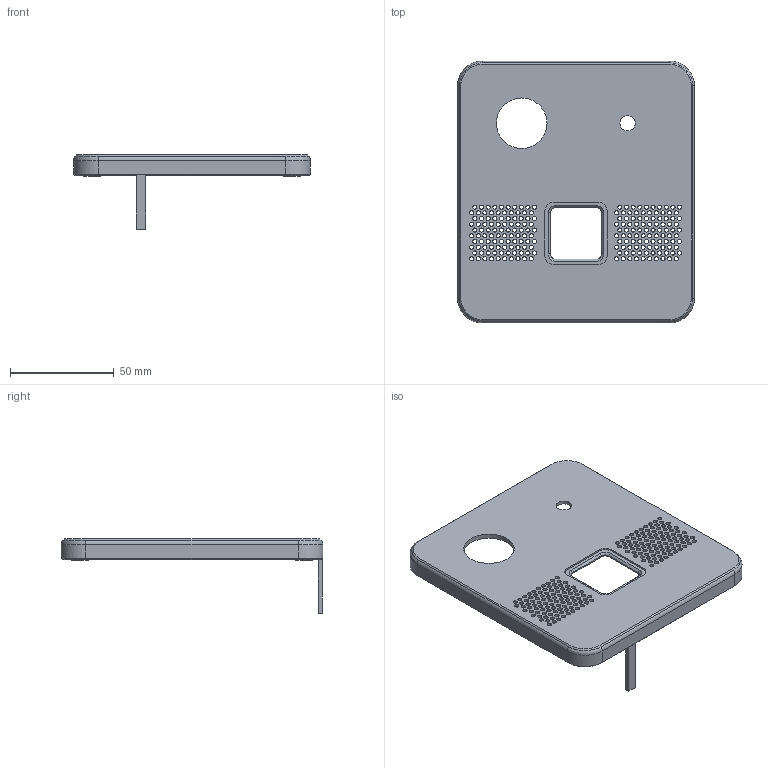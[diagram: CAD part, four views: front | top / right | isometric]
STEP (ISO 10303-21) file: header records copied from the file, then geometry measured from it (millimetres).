
FILE_DESCRIPTION(('Open CASCADE Model'),'2;1');
FILE_NAME('Open CASCADE Shape Model','2026-10-01T00:48:59',('Author'),( 'Open CASCADE'),'Open CASCADE STEP processor 7.9','Open CASCADE 7.9' ,'Unknown');
FILE_SCHEMA(('AUTOMOTIVE_DESIGN { 1 0 10303 214 1 1 1 1 }'));
Length unit declared in the file: millimetre
Products named in the file (1): Open CASCADE STEP translator 7.9 3
Bounding box: 114.34 x 126.4 x 35.8 mm (x, y, z)
Volume: 36514.8 mm3; surface area: 37174.7 mm2
Topology: 1 solids, 1 shells, 320 faces, 890 edges, 580 vertices
Faces by surface type: cylinder 243, plane 57, cone 12, bspline 4, torus 4
Full cylindrical faces by diameter (mm): 2 x200, 2.6 x4, 7.4 x1, 8 x4, 20 x1, 24.4 x1
Entity records: 24613 total; most frequent: CARTESIAN_POINT 7027, DIRECTION 3185, ORIENTED_EDGE 1780, PCURVE 1780, DEFINITIONAL_REPRESENTATION 1780, LINE 1508, VECTOR 1508, EDGE_CURVE 890
